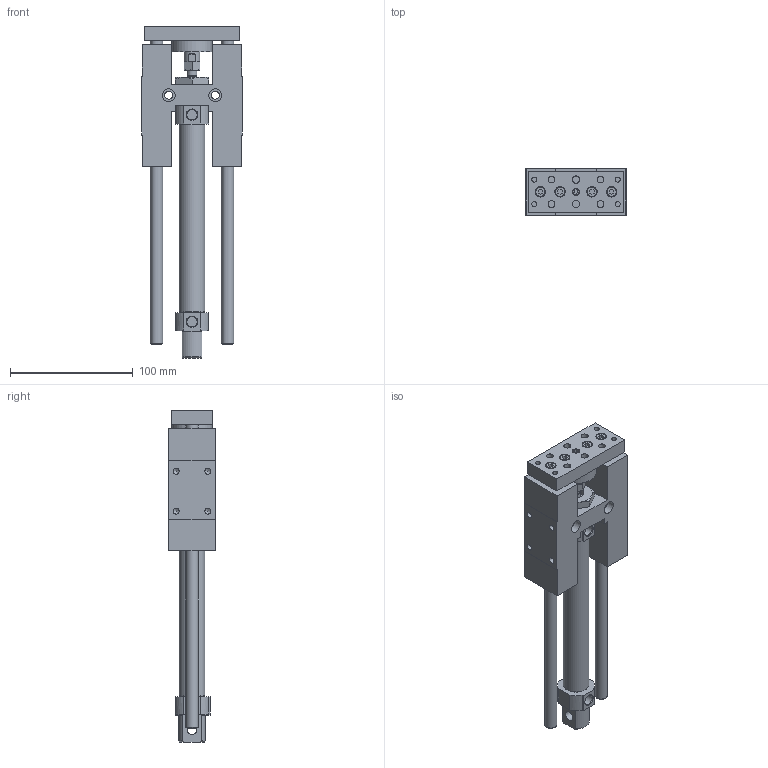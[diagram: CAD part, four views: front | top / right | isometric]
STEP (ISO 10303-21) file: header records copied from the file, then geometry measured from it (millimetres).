
FILE_DESCRIPTION((''),'2;1');
FILE_NAME('I:\3D電子目錄\氣缸\GHB(U)\GHB(U)\GHB(U)20\GHB(U)20x125.stp','2007-10-22T16:14:06',('Administrator'),(''),'Autodesk Inventor 11','Autodesk Inventor 11','');
FILE_SCHEMA(('AUTOMOTIVE_DESIGN { 1 0 10303 214 1 1 1 1 }'));
Length unit declared in the file: millimetre
Products named in the file (1): GHB(U)20
Bounding box: 82 x 38 x 271 mm (x, y, z)
Volume: 343791.6 mm3; surface area: 72257.7 mm2
Topology: 1 solids, 1 shells, 241 faces, 563 edges, 363 vertices
Faces by surface type: plane 132, bspline 40, cylinder 38, cone 31
Full cylindrical faces by diameter (mm): 4.917 x4, 5 x1, 6 x3, 6.6 x1, 7.5 x4, 8 x3, 8.5 x6, 10 x2, 13 x2, 21.2 x1, 33 x1
Entity records: 6788 total; most frequent: CARTESIAN_POINT 1686, DIRECTION 1006, ORIENTED_EDGE 964, EDGE_CURVE 482, EDGE_LOOP 372, AXIS2_PLACEMENT_3D 366, VERTEX_POINT 348, VECTOR 274
